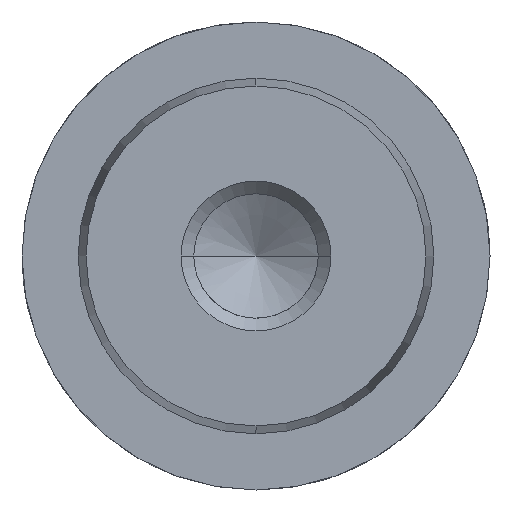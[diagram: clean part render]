
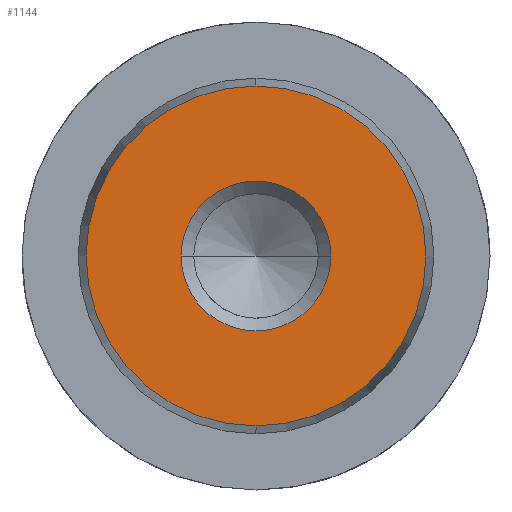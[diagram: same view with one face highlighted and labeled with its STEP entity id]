
A CAD part, left-side view. The second image highlights one B-rep face of the part: STEP entity #1144.
In plain terms, the highlighted planar face has unit normal (-1, 0, 0).
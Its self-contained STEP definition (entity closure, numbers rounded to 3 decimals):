
#1058=CARTESIAN_POINT('Vertex',(0.,0.,-9.078)) ;
#1061=CARTESIAN_POINT('Axis2P3D Location',(0.,0.,0.)) ;
#1065=CARTESIAN_POINT('Vertex',(0.,9.078,0.)) ;
#1068=CARTESIAN_POINT('Axis2P3D Location',(0.,0.,0.)) ;
#1072=CARTESIAN_POINT('Vertex',(0.,0.,9.078)) ;
#1094=CARTESIAN_POINT('Axis2P3D Location',(0.,0.,0.)) ;
#1098=CARTESIAN_POINT('Vertex',(0.,-9.078,0.)) ;
#1101=CARTESIAN_POINT('Axis2P3D Location',(0.,0.,0.)) ;
#1115=CARTESIAN_POINT('Axis2P3D Location',(0.,0.,0.)) ;
#1126=CARTESIAN_POINT('Axis2P3D Location',(0.,0.,0.)) ;
#1130=CARTESIAN_POINT('Vertex',(0.,4.,0.)) ;
#1132=CARTESIAN_POINT('Vertex',(0.,-4.,0.)) ;
#1135=CARTESIAN_POINT('Axis2P3D Location',(0.,0.,0.)) ;
#1062=DIRECTION('Axis2P3D Direction',(1.,0.,-0.)) ;
#1069=DIRECTION('Axis2P3D Direction',(1.,0.,-0.)) ;
#1095=DIRECTION('Axis2P3D Direction',(1.,0.,-0.)) ;
#1102=DIRECTION('Axis2P3D Direction',(1.,0.,-0.)) ;
#1116=DIRECTION('Axis2P3D Direction',(1.,0.,-0.)) ;
#1117=DIRECTION('Axis2P3D XDirection',(-0.,0.,-1.)) ;
#1127=DIRECTION('Axis2P3D Direction',(1.,0.,-0.)) ;
#1136=DIRECTION('Axis2P3D Direction',(1.,0.,-0.)) ;
#1063=AXIS2_PLACEMENT_3D('Circle Axis2P3D',#1061,#1062,$) ;
#1070=AXIS2_PLACEMENT_3D('Circle Axis2P3D',#1068,#1069,$) ;
#1096=AXIS2_PLACEMENT_3D('Circle Axis2P3D',#1094,#1095,$) ;
#1103=AXIS2_PLACEMENT_3D('Circle Axis2P3D',#1101,#1102,$) ;
#1118=AXIS2_PLACEMENT_3D('Plane Axis2P3D',#1115,#1116,#1117) ;
#1128=AXIS2_PLACEMENT_3D('Circle Axis2P3D',#1126,#1127,$) ;
#1137=AXIS2_PLACEMENT_3D('Circle Axis2P3D',#1135,#1136,$) ;
#1121=ORIENTED_EDGE('',*,*,#1067,.F.) ;
#1122=ORIENTED_EDGE('',*,*,#1105,.F.) ;
#1123=ORIENTED_EDGE('',*,*,#1100,.F.) ;
#1124=ORIENTED_EDGE('',*,*,#1074,.F.) ;
#1141=ORIENTED_EDGE('',*,*,#1134,.T.) ;
#1142=ORIENTED_EDGE('',*,*,#1139,.T.) ;
#1143=FACE_BOUND('',#1140,.T.) ;
#1144=ADVANCED_FACE('718-19x140',(#1125,#1143),#1119,.F.) ;
#1064=CIRCLE('generated circle',#1063,9.078) ;
#1071=CIRCLE('generated circle',#1070,9.078) ;
#1097=CIRCLE('generated circle',#1096,9.078) ;
#1104=CIRCLE('generated circle',#1103,9.078) ;
#1129=CIRCLE('generated circle',#1128,4.) ;
#1138=CIRCLE('generated circle',#1137,4.) ;
#1067=EDGE_CURVE('',#1059,#1066,#1064,.T.) ;
#1074=EDGE_CURVE('',#1066,#1073,#1071,.T.) ;
#1100=EDGE_CURVE('',#1073,#1099,#1097,.T.) ;
#1105=EDGE_CURVE('',#1099,#1059,#1104,.T.) ;
#1134=EDGE_CURVE('',#1131,#1133,#1129,.T.) ;
#1139=EDGE_CURVE('',#1133,#1131,#1138,.T.) ;
#1120=EDGE_LOOP('',(#1121,#1122,#1123,#1124)) ;
#1140=EDGE_LOOP('',(#1141,#1142)) ;
#1125=FACE_OUTER_BOUND('',#1120,.T.) ;
#1119=PLANE('Plane',#1118) ;
#1059=VERTEX_POINT('',#1058) ;
#1066=VERTEX_POINT('',#1065) ;
#1073=VERTEX_POINT('',#1072) ;
#1099=VERTEX_POINT('',#1098) ;
#1131=VERTEX_POINT('',#1130) ;
#1133=VERTEX_POINT('',#1132) ;
